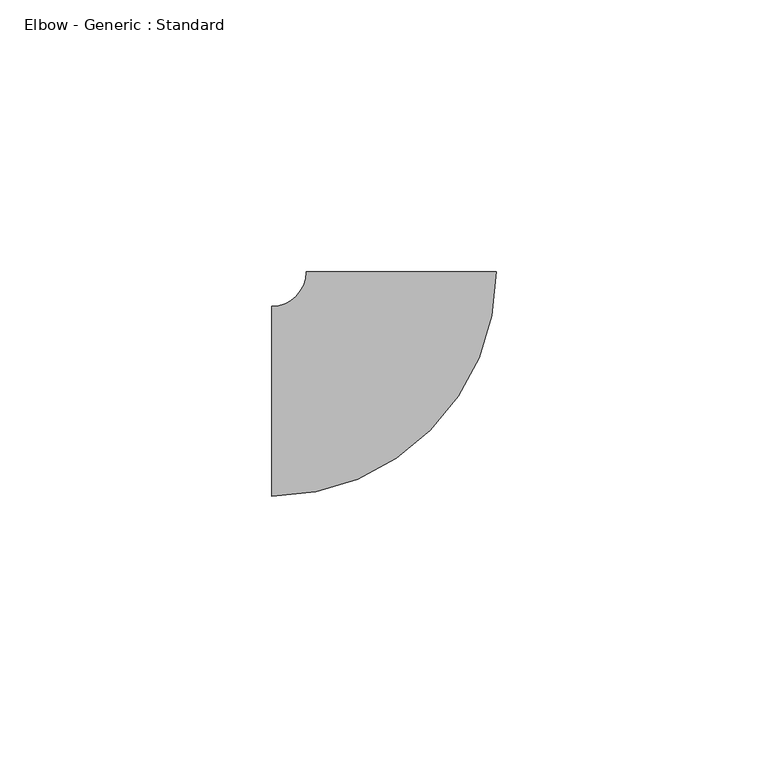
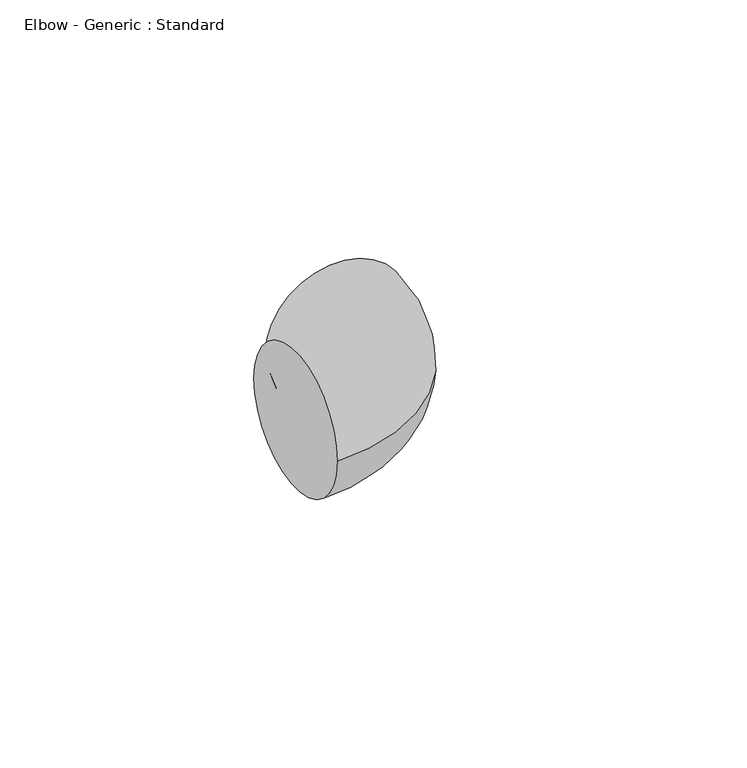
"""IFC4 building model written with IfcOpenShell, lengths in millimetres: pipe fitting geometry, Elbow - Generic : Standard."""

import ifcopenshell
import ifcopenshell.guid

model = None  # the IFC model being written
_history = None  # IfcOwnerHistory: only IFC2X3 demands one
_inside = {}  # id of a spatial element -> (the spatial element, [elements in it])
_under = {}  # id of a project, library or spatial element -> (it, [spatial elements below it])
_declared = {}  # id of a project -> (the project, [libraries it declares])
_typed = {}  # id of a type object -> (the type object, [elements of that type])
_made_of = {}  # id of a material, layer set ... -> (it, [elements and type objects made of it])


def new_model(schema):
    """Start an empty IFC model of exactly this schema.

    Asked for "IFC4X3", IfcOpenShell would pick the latest addendum, in which some entities
    have other attributes; the version numbers below select the first issue.
    IFC2X3 requires an IfcOwnerHistory on every rooted entity: one is made here for all.
    """
    global model, _history
    if schema == "IFC4X3":
        model = ifcopenshell.file(schema_version=(4, 3, 0, 0))
    else:
        model = ifcopenshell.file(schema=schema)
    _inside.clear()
    _under.clear()
    _declared.clear()
    _typed.clear()
    _made_of.clear()
    _history = None
    if model.schema == "IFC2X3":
        org = make("IfcOrganization", Name="unknown")
        user = make(
            "IfcPersonAndOrganization",
            ThePerson=make("IfcPerson", FamilyName="unknown"),
            TheOrganization=org,
        )
        app = make(
            "IfcApplication",
            ApplicationDeveloper=org,
            Version="unknown",
            ApplicationFullName="unknown",
            ApplicationIdentifier="unknown",
        )
        _history = make(
            "IfcOwnerHistory",
            OwningUser=user,
            OwningApplication=app,
            ChangeAction="ADDED",
            CreationDate=0,
        )
    return model


def make(cls, **values):
    """One entity of the class cls with the attributes given. An attribute that is None is left unset."""
    return model.create_entity(
        cls, **{name: value for name, value in values.items() if value is not None}
    )


def rooted(cls, **values):
    """An entity with a GlobalId (a new one), such as an element, a storey or a relation."""
    return make(cls, GlobalId=ifcopenshell.guid.new(), OwnerHistory=_history, **values)


def si_unit(unit_type, name, prefix=None):
    """IfcSIUnit, for example si_unit("LENGTHUNIT", "METRE", prefix="MILLI")."""
    return make("IfcSIUnit", UnitType=unit_type, Prefix=prefix, Name=name)


def assignment(units):
    """IfcUnitAssignment: the units of a project."""
    return None if units is None else make("IfcUnitAssignment", Units=units)


def point(xyz):
    """IfcCartesianPoint."""
    return None if xyz is None else make("IfcCartesianPoint", Coordinates=xyz)


def direction(xyz):
    """IfcDirection."""
    return None if xyz is None else make("IfcDirection", DirectionRatios=xyz)


def frame(location, z_axis=None, x_axis=None):
    """IfcAxis2Placement3D, a coordinate frame: its origin and axes. An axis left out is left unset."""
    return make(
        "IfcAxis2Placement3D",
        Location=point(location),
        Axis=direction(z_axis),
        RefDirection=direction(x_axis),
    )


def origin():
    """The frame at (0, 0, 0) with its axes left unset."""
    return frame((0.0, 0.0, 0.0))


def place(relative_to, where):
    """IfcLocalPlacement: puts the frame where relative to a parent placement (None: the world)."""
    return make(
        "IfcLocalPlacement", PlacementRelTo=relative_to, RelativePlacement=where
    )


def context(
    kind, dimensions, precision=None, world=None, true_north=None, identifier=None
):
    """IfcGeometricRepresentationContext, for example the 3D "Model" context."""
    return make(
        "IfcGeometricRepresentationContext",
        ContextIdentifier=identifier,
        ContextType=kind,
        CoordinateSpaceDimension=dimensions,
        Precision=precision,
        WorldCoordinateSystem=world,
        TrueNorth=true_north,
    )


def project(units=None, contexts=None):
    """IfcProject with its units and contexts."""
    return rooted(
        "IfcProject",
        Name="project",
        RepresentationContexts=contexts,
        UnitsInContext=assignment(units),
    )


def spatial(cls, under=None, at=None, **own):
    """A site, building, storey or space (cls), placed at a placement, below another one or the project."""
    s = rooted(cls, ObjectPlacement=at, **own)
    if under is not None:
        _under.setdefault(under.id(), (under, []))[1].append(s)
    return s


def circle_curve(where, radius):
    """IfcCircle in the frame where."""
    return make("IfcCircle", Position=where, Radius=radius)


def ellipse_curve(where, semi_axis1, semi_axis2):
    """IfcEllipse in the frame where."""
    return make(
        "IfcEllipse", Position=where, SemiAxis1=semi_axis1, SemiAxis2=semi_axis2
    )


def trimmed(basis, trim1, trim2, sense, master):
    """IfcTrimmedCurve: the piece of a basis curve between two trims."""
    return make(
        "IfcTrimmedCurve",
        BasisCurve=basis,
        Trim1=trim1,
        Trim2=trim2,
        SenseAgreement=sense,
        MasterRepresentation=master,
    )


def shape(context_of_items, identifier, shape_type, items):
    """IfcShapeRepresentation: the items that make up one representation, for example the "Body"."""
    return make(
        "IfcShapeRepresentation",
        ContextOfItems=context_of_items,
        RepresentationIdentifier=identifier,
        RepresentationType=shape_type,
        Items=items,
    )


def source(mapping_origin, context_of_items, identifier, shape_type, items):
    """IfcRepresentationMap: a shape defined once, which mapped items show again and again."""
    return make(
        "IfcRepresentationMap",
        MappingOrigin=mapping_origin,
        MappedRepresentation=shape(context_of_items, identifier, shape_type, items),
    )


def transform(
    local_origin,
    x_axis=None,
    y_axis=None,
    z_axis=None,
    scale=None,
    scale2=None,
    scale3=None,
    uniform=True,
):
    """IfcCartesianTransformationOperator3D, or its non-uniform kind. x_axis, y_axis, z_axis: its Axis1, 2, 3."""
    if uniform:
        return make(
            "IfcCartesianTransformationOperator3D",
            Axis1=direction(x_axis),
            Axis2=direction(y_axis),
            LocalOrigin=point(local_origin),
            Scale=scale,
            Axis3=direction(z_axis),
        )
    return make(
        "IfcCartesianTransformationOperator3DnonUniform",
        Axis1=direction(x_axis),
        Axis2=direction(y_axis),
        LocalOrigin=point(local_origin),
        Scale=scale,
        Axis3=direction(z_axis),
        Scale2=scale2,
        Scale3=scale3,
    )


def mapped(mapping_source, mapping_target):
    """IfcMappedItem: shows the shape of a source again, moved by a transform."""
    return make(
        "IfcMappedItem", MappingSource=mapping_source, MappingTarget=mapping_target
    )


def made_of(thing, what):
    """Note that an element or type object is made of a material, layer set ...; save() writes the relation."""
    if what is not None:
        _made_of.setdefault(what.id(), (what, []))[1].append(thing)
    return thing


def element(
    cls,
    number,
    at=None,
    inside=None,
    cuts=None,
    type_object=None,
    material=None,
    context=None,
    identifier="Body",
    shape_type=None,
    held_by="IfcProductDefinitionShape",
    body=None,
    shapes=None,
    **own,
):
    """One element of the class cls, such as IfcWall. Its Tag is "e" and its number.

    at: its placement. inside: the storey or other place that contains it. cuts: it is an
    opening in that element (IfcRelVoidsElement). A single representation is given by context,
    identifier, shape_type and body (its items); several are given by shapes. held_by: the class
    of the entity that holds the representations. save() writes the other relations.
    """
    e = rooted(cls, Tag="e%d" % number, ObjectPlacement=at, **own)
    if body is not None:
        shapes = [shape(context, identifier, shape_type, body)]
    if shapes is not None:
        e.Representation = make(held_by, Representations=shapes)
    if inside is not None:
        _inside.setdefault(inside.id(), (inside, []))[1].append(e)
    if cuts is not None:
        rooted(
            "IfcRelVoidsElement", RelatingBuildingElement=cuts, RelatedOpeningElement=e
        )
    if type_object is not None:
        _typed.setdefault(type_object.id(), (type_object, []))[1].append(e)
    return made_of(e, material)


def aggregate(whole, parts):
    """IfcRelAggregates: a whole, such as a stair, and the parts it consists of."""
    return rooted("IfcRelAggregates", RelatingObject=whole, RelatedObjects=parts)


def save(model, path):
    """Write the relations noted so far, then the file.

    IfcRelAggregates (storeys below a building ...), IfcRelContainedInSpatialStructure (elements
    in a storey), IfcRelDefinesByType, IfcRelAssociatesMaterial and IfcRelDeclares: one each for
    every whole, place, type object, material and project.
    """
    for whole, parts in _under.values():
        aggregate(whole, parts)
    for where, things in _inside.values():
        rooted(
            "IfcRelContainedInSpatialStructure",
            RelatedElements=things,
            RelatingStructure=where,
        )
    for kind, things in _typed.values():
        rooted("IfcRelDefinesByType", RelatedObjects=things, RelatingType=kind)
    for what, things in _made_of.values():
        rooted("IfcRelAssociatesMaterial", RelatedObjects=things, RelatingMaterial=what)
    for by, libraries in _declared.values():
        rooted("IfcRelDeclares", RelatingContext=by, RelatedDefinitions=libraries)
    model.write(path)


def plane_surface(at):
    """IfcPlane: the flat surface through the origin of the frame at, square to its z axis."""
    return make("IfcPlane", Position=at)


def revolved_surface(curve, axis_point, axis_direction):
    """IfcSurfaceOfRevolution: the curve turned about the line through axis_point along axis_direction."""
    return make(
        "IfcSurfaceOfRevolution",
        SweptCurve=make("IfcArbitraryOpenProfileDef", ProfileType="CURVE", Curve=curve),
        AxisPosition=make("IfcAxis1Placement", Location=point(axis_point), Axis=direction(axis_direction)),
    )


def advanced_brep(points, edges, surfaces, faces):
    """IfcAdvancedBrep: a solid bounded by faces that lie on surfaces and meet in shared edges.

    An edge is (start, end): straight between two places in points (the first is 0);
    or (start, end, curve); or (start, end, curve, False) where it runs against its curve.
    A face is (place in surfaces, loops), or (place, loops, False) where it looks against
    its surface's normal. A loop lists edges by number (the first is 1), with a minus sign
    where the edge is run from its end to its start. The first loop is the outer one.
    """
    corners = [point(p) for p in points]
    vertices = [make("IfcVertexPoint", VertexGeometry=c) for c in corners]
    made = []
    for start, end, *more in edges:
        made.append(
            make(
                "IfcEdgeCurve",
                EdgeStart=vertices[start],
                EdgeEnd=vertices[end],
                EdgeGeometry=more[0] if more else make("IfcPolyline", Points=[corners[start], corners[end]]),
                SameSense=more[1] if len(more) > 1 else True,
            )
        )
    hull = []
    for where, loops, *sense in faces:
        bounds = []
        for j, loop in enumerate(loops):
            ring = [make("IfcOrientedEdge", EdgeElement=made[abs(k) - 1], Orientation=k > 0) for k in loop]
            bounds.append(
                make(
                    "IfcFaceOuterBound" if j == 0 else "IfcFaceBound",
                    Bound=make("IfcEdgeLoop", EdgeList=ring),
                    Orientation=True,
                )
            )
        hull.append(make("IfcAdvancedFace", Bounds=bounds, FaceSurface=surfaces[where], SameSense=sense[0] if sense else True))
    return make("IfcAdvancedBrep", Outer=make("IfcClosedShell", CfsFaces=hull))


def elbow_generic_standard_a6ae4ebe(model_context):
    return source(origin(), model_context, "Body", "AdvancedBrep", [
        advanced_brep(
        [(-23.8125, -17.4625, 0.0), (-23.8125, 17.4625, 0.0), (17.4625, 23.8125, 0.0), (-17.4625, 23.8125, 0.0)],
        [
            (0, 1, circle_curve(frame((-23.8125, 0.0, 0.0), z_axis=(-1.0, 0.0, 0.0), x_axis=(0.0, 1.0, 0.0)), 17.4625)),
            (1, 0, circle_curve(frame((-23.8125, 0.0, 0.0), z_axis=(-1.0, 0.0, 0.0), x_axis=(0.0, 1.0, 0.0)), 17.4625)),
            (2, 3, circle_curve(frame((0.0, 23.8125, 0.0), z_axis=(0.0, 1.0, 0.0), x_axis=(-1.0, 0.0, 0.0)), 17.4625)),
            (3, 2, circle_curve(frame((0.0, 23.8125, 0.0), z_axis=(0.0, 1.0, 0.0), x_axis=(-1.0, 0.0, 0.0)), 17.4625)),
            (3, 1, circle_curve(frame((-23.8125, 23.8125, 0.0), z_axis=(0.0, 0.0, -1.0), x_axis=(0.0, -1.0, 0.0)), 6.35)),
            (0, 2, circle_curve(frame((-23.8125, 23.8125, 0.0), z_axis=(0.0, 0.0, 1.0), x_axis=(0.0, -1.0, 0.0)), 41.275)),
        ],
        [
            plane_surface(frame((-23.8125, 0.0, 0.0), z_axis=(-1.0, 0.0, 0.0), x_axis=(0.0, 0.0, 1.0))),
            plane_surface(frame((0.0, 23.8125, 0.0), z_axis=(0.0, 1.0, 0.0), x_axis=(0.0, 0.0, 1.0))),
            revolved_surface(trimmed(ellipse_curve(frame((-23.8125, 0.0, 0.0), z_axis=(-1.0, 0.0, 0.0), x_axis=(0.0, 1.0, 0.0)), 17.4625, 17.4625), [point((-23.8125, -17.4625, 0.0))], [point((-23.8125, 17.4625, 0.0))], True, "CARTESIAN"), (-23.8125, 23.8125, 0.0), (0.0, 0.0, 1.0)),
            revolved_surface(trimmed(ellipse_curve(frame((-23.8125, 0.0, 0.0), z_axis=(-1.0, 0.0, 0.0), x_axis=(0.0, 1.0, 0.0)), 17.4625, 17.4625), [point((-23.8125, 17.4625, 0.0))], [point((-23.8125, -17.4625, 0.0))], True, "CARTESIAN"), (-23.8125, 23.8125, 0.0), (0.0, 0.0, 1.0)),
        ],
        [
            (0, [[1, 2]]),
            (1, [[3, 4]]),
            (2, [[5, -1, 6, -4]]),
            (3, [[-6, -2, -5, -3]]),
        ],
    ),
    ])


if __name__ == "__main__":
    model = new_model("IFC4")
    model_context = context("Model", 3, world=origin())
    ifc_project = project(units=[si_unit("LENGTHUNIT", "METRE", prefix="MILLI")], contexts=[model_context])
    site = spatial("IfcSite", under=ifc_project)
    building = spatial("IfcBuilding", under=site)
    placement = place(None, origin())
    elbow_generic_standard_shape = elbow_generic_standard_a6ae4ebe(model_context)
    element("IfcPipeFitting", 1, ObjectType="Elbow - Generic : Standard", at=placement, inside=building, context=model_context, shape_type="MappedRepresentation", body=[
        mapped(elbow_generic_standard_shape, transform((0.0, 0.0, 0.0), x_axis=(1.0, 0.0, 0.0), y_axis=(0.0, 1.0, 0.0), z_axis=(0.0, 0.0, 1.0))),
    ])
    save(model, "model.ifc")
